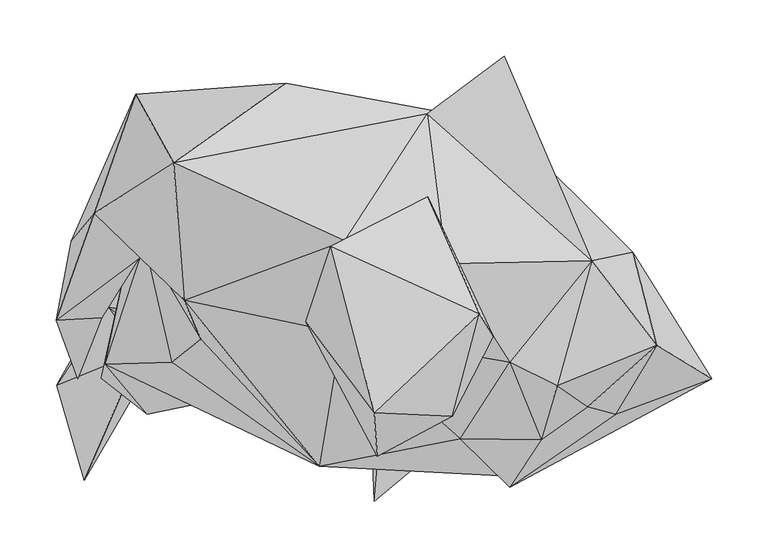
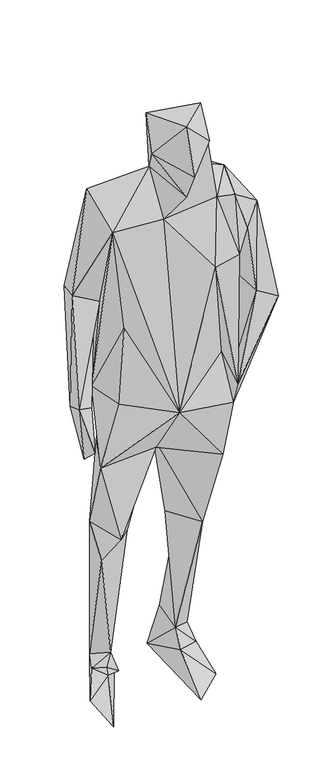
"""IFC4 building model written with IfcOpenShell, lengths in millimetres: geographic element geometry, Enscape AssetDefinition - Eli 003 Standing : Enscape AssetDefinition - Eli 003 Standing."""

from ifc_helpers import new_model, si_unit, origin, place, context, project, spatial, faceted_brep, source, transform, mapped, element, save


def geographic_element_61ea8643(model_context):
    return source(origin(), model_context, "Body", "Brep", [
        faceted_brep([(-121.8978092, 130.7487041, 114.201121), (-100.1918018, 60.2653734, 499.8127818), (-159.5258266, 45.2047773, 134.6469969), (-5.3293188, 85.0922316, 753.6734343), (-152.6095867, 134.1623366, 765.0315762), (-218.8698351, -10.5677014, 487.0495796), (-196.3513792, 92.2133029, 542.7161455), (-178.1669408, -42.7075028, 558.5951805), (-195.6908256, 94.8924571, 111.9366884), (-106.4864472, 117.3129752, 12.6142874), (-215.5621052, 1.8627134, 776.0459781), (-212.8240019, 52.4727553, 95.9557295), (-258.4085166, -16.8433655, 49.4208634), (-180.208534, 30.922642, 102.0025462), (-184.4725758, 13.5416463, 86.968936), (-233.9753956, -101.1901051, 6.7613297), (-155.4866135, 9.6243527, 94.8884562), (-180.4273874, 108.8128462, 966.0847187), (-80.7862058, 198.5088885, 934.0828657), (-156.4049721, 3.7644, 962.5071883), (-25.1766108, -88.7427032, 944.8673725), (-55.4317161, -17.0782041, 800.471127), (-130.5188537, 24.0613818, 1187.7015829), (-145.4725266, 58.634501, 1481.5757275), (113.1408513, -79.6419904, 756.0567856), (135.548383, -97.3107889, 928.1718731), (99.9499634, -64.6043792, 1358.2798243), (130.7057291, -41.4933413, 1061.185956), (-5.5371756, 29.2527955, 1493.7802553), (144.0205127, -107.5067446, 990.2919531), (171.9942093, -65.271914, 1376.3903379), (144.1084594, 3.4666057, 1530.9126377), (186.3313019, -17.3809957, 1537.2722149), (129.2527318, 26.7535206, 1694.9971914), (87.7733752, 91.2129954, 1612.6111746), (216.8812007, 93.803212, 1554.1625023), (274.9081254, 18.5272042, 1464.1157389), (213.5894746, -36.1330435, 1430.741787), (238.1485105, -42.6195636, 1222.3067284), (210.8563632, 41.8680795, 1251.8724203), (253.4959018, 101.3450027, 1348.2227325), (323.6414492, -11.0743511, 1155.1631689), (172.0601618, -22.7303002, 967.7965045), (138.5672837, 215.4821604, 1417.0483351), (126.652509, -50.0973985, 1137.4053955), (194.2368448, 83.9320272, 999.7264743), (174.9231815, 74.4935498, 912.7315879), (139.4896507, 159.3199521, 949.2513537), (68.4287325, 122.2445592, 832.7997923), (166.3860828, 77.3665681, 773.1490135), (-18.4092857, 233.9204252, 1051.5877008), (-55.0409816, 251.3783574, 1469.1393375), (-129.551515, 184.7653836, 1207.0193291), (-148.4464705, 123.4457344, 1220.465064), (-259.0371072, 41.1146022, 957.7594399), (-225.3033817, 136.0090673, 1258.4568262), (-154.5052826, 180.8121204, 1553.3140898), (-2.6111966, 111.5299687, 1615.0914431), (-245.6143498, 110.9983325, 922.1161008), (-188.3319169, 241.9049144, 1213.6727571), (-239.8943007, -11.0553643, 842.0704007), (-248.4513968, 30.9656113, 800.2362847), (-218.5770422, 42.9523326, 948.5348463), (70.537284, 224.2840827, 1507.5616837), (139.2747909, 275.4247785, 1520.888567), (22.4704798, -45.1588072, 1600.9892225), (-14.9266906, 106.658332, 1796.2692976), (71.2787658, 150.6139785, 1723.2626677), (-37.3102278, 39.5666696, 1711.4830017), (117.1830669, 46.4339294, 1818.5969591), (23.5787146, -41.4983369, 1827.7035952), (26.3537988, -80.2675635, 1685.1770878), (93.184635, -44.4363058, 1759.6675158), (36.3658816, 93.9750895, 495.4817891), (106.9731116, 138.0136758, 481.2995493), (46.2700389, 54.6832308, 137.7608627), (95.0403512, -3.1018574, 497.2805381), (152.9493481, 61.4145808, 551.9077778), (94.4307745, 76.8519193, 125.1245737), (51.3265505, 149.1989493, 150.8807838), (83.6282372, 137.8537863, 26.2908414), (98.9056826, 38.0257368, 84.2578039), (13.4906825, 151.198566, 38.1286666), (110.7265204, -47.4582203, 25.610311), (35.3835635, 10.779555, 95.3481421), (23.7715803, -119.9701354, 16.4836161)], [[[0, 1, 2]], [[3, 1, 4]], [[1, 5, 2]], [[4, 1, 6]], [[0, 6, 1]], [[3, 7, 1]], [[5, 1, 7]], [[8, 0, 9]], [[9, 0, 2]], [[6, 0, 8]], [[5, 6, 8]], [[10, 6, 7]], [[6, 5, 7]], [[10, 4, 6]], [[8, 2, 5]], [[2, 8, 11]], [[8, 12, 11]], [[12, 8, 9]], [[2, 11, 13]], [[11, 12, 14]], [[13, 11, 14]], [[14, 12, 15]], [[12, 9, 15]], [[9, 16, 14]], [[9, 14, 15]], [[14, 16, 13]], [[9, 2, 16]], [[2, 13, 16]], [[10, 17, 18]], [[19, 10, 20]], [[21, 10, 7]], [[10, 21, 20]], [[19, 17, 10]], [[18, 4, 10]], [[20, 22, 19]], [[17, 19, 22]], [[23, 22, 20]], [[22, 23, 17]], [[21, 24, 20]], [[24, 25, 20]], [[26, 20, 27]], [[20, 28, 23]], [[25, 27, 20]], [[28, 20, 26]], [[25, 29, 27]], [[26, 27, 29]], [[30, 31, 26]], [[29, 30, 26]], [[28, 26, 31]], [[30, 32, 31]], [[33, 31, 34]], [[34, 31, 35]], [[32, 35, 31]], [[31, 33, 28]], [[36, 32, 37]], [[35, 32, 36]], [[30, 37, 32]], [[38, 37, 39]], [[37, 38, 36]], [[30, 39, 37]], [[35, 36, 40]], [[41, 40, 36]], [[36, 38, 41]], [[42, 29, 38]], [[41, 38, 29]], [[40, 42, 38]], [[39, 40, 38]], [[39, 43, 40]], [[42, 40, 41]], [[43, 35, 40]], [[41, 29, 25]], [[41, 25, 42]], [[42, 44, 29]], [[44, 30, 29]], [[30, 44, 42]], [[30, 42, 39]], [[45, 39, 42]], [[45, 42, 46]], [[42, 25, 46]], [[25, 24, 46]], [[46, 47, 45]], [[47, 46, 48]], [[48, 46, 49]], [[24, 49, 46]], [[39, 45, 43]], [[45, 47, 43]], [[18, 50, 47]], [[48, 18, 47]], [[50, 51, 47]], [[51, 43, 47]], [[18, 52, 50]], [[52, 51, 50]], [[52, 18, 17]], [[4, 18, 48]], [[17, 53, 52]], [[17, 23, 53]], [[53, 54, 52]], [[54, 53, 55]], [[53, 23, 55]], [[23, 56, 55]], [[56, 23, 57]], [[28, 57, 23]], [[55, 58, 54]], [[55, 59, 58]], [[55, 56, 59]], [[60, 61, 58]], [[62, 60, 58]], [[59, 52, 58]], [[54, 58, 61]], [[62, 58, 52]], [[52, 59, 51]], [[59, 56, 51]], [[54, 62, 52]], [[60, 62, 54]], [[60, 54, 61]], [[56, 43, 51]], [[63, 64, 43]], [[35, 43, 64]], [[43, 56, 63]], [[35, 64, 63]], [[34, 63, 57]], [[56, 57, 63]], [[34, 35, 63]], [[65, 57, 28]], [[66, 67, 57]], [[66, 57, 68]], [[68, 57, 65]], [[34, 57, 67]], [[33, 34, 67]], [[67, 66, 69]], [[33, 67, 69]], [[70, 69, 66]], [[70, 66, 68]], [[71, 70, 68]], [[71, 68, 65]], [[33, 65, 28]], [[71, 65, 33]], [[72, 71, 33]], [[69, 72, 33]], [[72, 69, 70]], [[71, 72, 70]], [[48, 3, 4]], [[3, 48, 73]], [[48, 74, 73]], [[48, 49, 74]], [[73, 74, 75]], [[73, 75, 76]], [[3, 73, 76]], [[77, 24, 76]], [[77, 76, 74]], [[76, 78, 74]], [[24, 3, 76]], [[78, 76, 75]], [[24, 21, 3]], [[49, 24, 77]], [[49, 77, 74]], [[74, 78, 79]], [[75, 74, 79]], [[79, 78, 80]], [[81, 80, 78]], [[78, 75, 81]], [[80, 82, 79]], [[75, 79, 82]], [[80, 81, 83]], [[82, 80, 83]], [[84, 83, 81]], [[75, 84, 81]], [[82, 83, 85]], [[85, 83, 84]], [[84, 75, 82]], [[82, 85, 84]], [[3, 21, 7]]]),
    ])


if __name__ == "__main__":
    model = new_model("IFC4")
    model_context = context("Model", 3, world=origin())
    ifc_project = project(units=[si_unit("LENGTHUNIT", "METRE", prefix="MILLI")], contexts=[model_context])
    site = spatial("IfcSite", under=ifc_project)
    building = spatial("IfcBuilding", under=site)
    placement = place(None, origin())
    geographic_element_shape = geographic_element_61ea8643(model_context)
    element("IfcGeographicElement", 1, ObjectType="Enscape AssetDefinition - Eli 003 Standing : Enscape AssetDefinition - Eli 003 Standing", at=placement, inside=building, context=model_context, shape_type="MappedRepresentation", body=[
        mapped(geographic_element_shape, transform((0.0, 0.0, 0.0), x_axis=(1.0, 0.0, 0.0), y_axis=(0.0, 1.0, 0.0), z_axis=(0.0, 0.0, 1.0))),
    ])
    save(model, "model.ifc")
